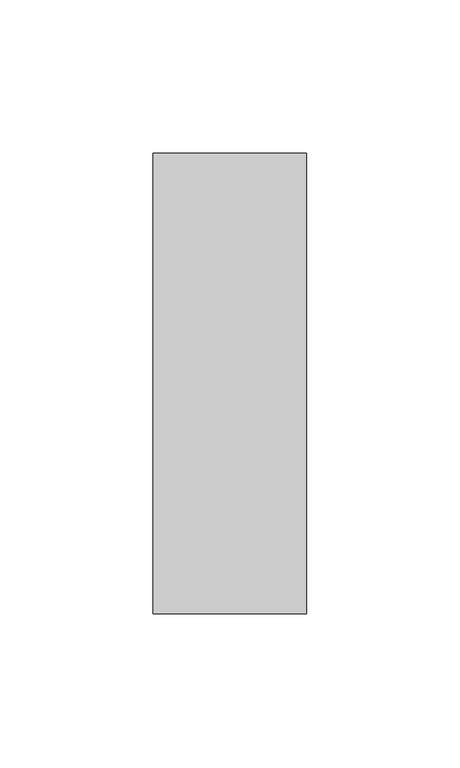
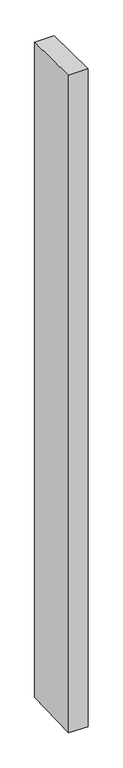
"""IFC4 building model written with IfcOpenShell, lengths in millimetres: member geometry, Прямоугольный импост : 50 x 150 мм."""

from ifc_helpers import new_model, si_unit, origin, place, context, project, spatial, faceted_brep, source, transform, mapped, element, save


def member_fb8cb0ea(model_context):
    return source(origin(), model_context, "Body", "Brep", [
        faceted_brep([(-25.0, 75.0, -1.3175766), (25.0, 75.0, -0.4118935), (25.0, 75.0, -1770.3087461), (-25.0, 75.0, -1769.3425807), (-25.0, -75.0, 0.4118935), (-25.0, -75.0, -1773.7040327), (25.0, -75.0, 1.3175766), (25.0, -75.0, -1774.6701981)], [[[0, 1, 2, 3]], [[4, 0, 3, 5]], [[6, 4, 5, 7]], [[1, 6, 7, 2]], [[1, 0, 4, 6]], [[2, 7, 5, 3]]]),
    ])


if __name__ == "__main__":
    model = new_model("IFC4")
    model_context = context("Model", 3, world=origin())
    ifc_project = project(units=[si_unit("LENGTHUNIT", "METRE", prefix="MILLI")], contexts=[model_context])
    site = spatial("IfcSite", under=ifc_project)
    building = spatial("IfcBuilding", under=site)
    placement = place(None, origin())
    member_shape = member_fb8cb0ea(model_context)
    element("IfcMember", 1, ObjectType="Прямоугольный импост : 50 x 150 мм", at=placement, inside=building, context=model_context, shape_type="MappedRepresentation", body=[
        mapped(member_shape, transform((0.0, 0.0, 0.0), x_axis=(1.0, 0.0, 0.0), y_axis=(0.0, 1.0, 0.0), z_axis=(0.0, 0.0, 1.0))),
    ])
    save(model, "model.ifc")
